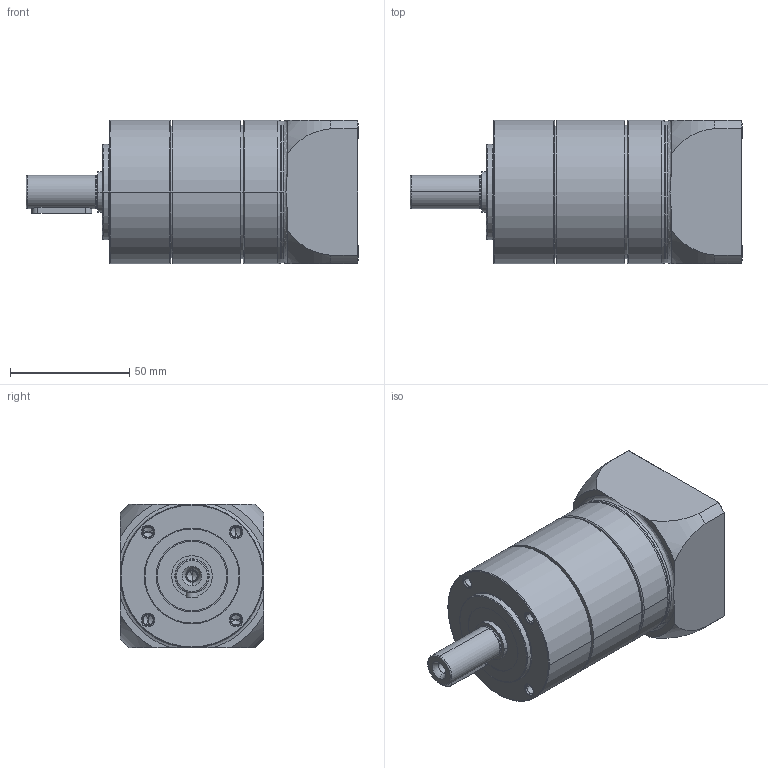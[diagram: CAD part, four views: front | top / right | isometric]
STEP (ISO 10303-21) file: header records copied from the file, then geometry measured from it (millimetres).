
FILE_DESCRIPTION((''),'2;1');
FILE_NAME('PG2-060_1ST_14-P1346230503_ASM','2019-01-07T',('D01226'),(''),'PRO/ENGINEER BY PARAMETRIC TECHNOLOGY CORPORATION, 2015240','PRO/ENGINEER BY PARAMETRIC TECHNOLOGY CORPORATION, 2015240','');
FILE_SCHEMA(('CONFIG_CONTROL_DESIGN'));
Length unit declared in the file: millimetre
Products named in the file (8): P1325200001; P0250200001; P1346230503; P0350201103; P0941202001; P0503300005; P1702300001; PG2-060_1ST_14-P1346230503_ASM
Assembly tree (7 placements, depth 2):
  PG2-060_1ST_14-P1346230503_ASM
    P1325200001
    P0250200001
    P1346230503
    P0350201103
    P0941202001
    P0503300005
    P1702300001
Bounding box: 139 x 60 x 60 mm (x, y, z)
Volume: 303697.1 mm3; surface area: 65872 mm2
Topology: 7 solids, 17 shells, 282 faces, 662 edges, 405 vertices
Faces by surface type: cylinder 107, plane 65, cone 58, torus 32, bspline 20
Entity records: 12825 total; most frequent: CARTESIAN_POINT 6245, DIRECTION 1425, ORIENTED_EDGE 1244, EDGE_CURVE 642, AXIS2_PLACEMENT_3D 597, VERTEX_POINT 405, EDGE_LOOP 321, CIRCLE 312
